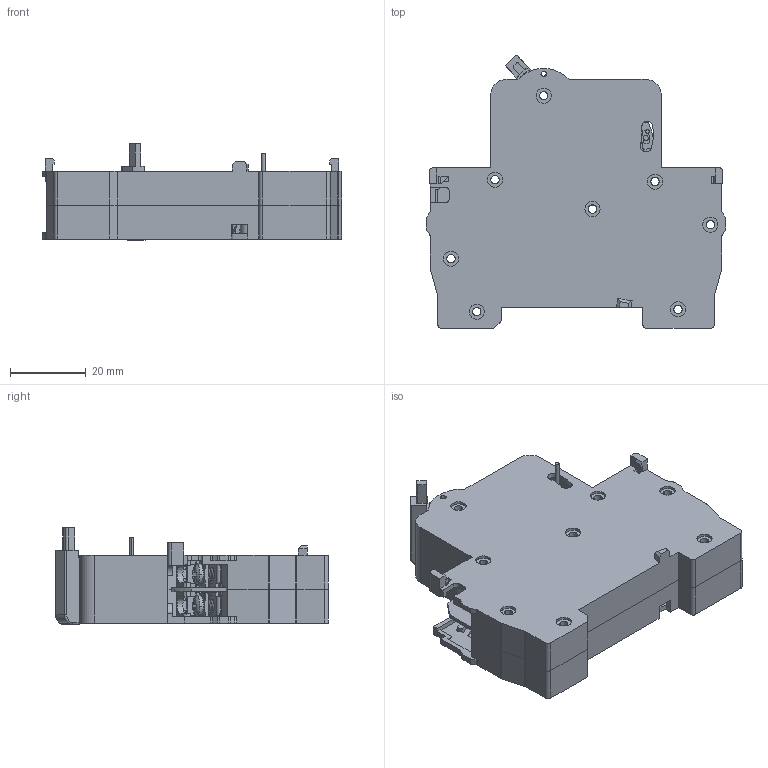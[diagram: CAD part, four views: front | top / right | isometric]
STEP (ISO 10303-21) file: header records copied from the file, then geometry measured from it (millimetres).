
FILE_DESCRIPTION((''),'2;1');
FILE_NAME('ASM0013_ASM','2025-10-31T17:09:19',('Administrator'),(''),'CREO PARAMETRIC BY PTC INC, 2018050','CREO PARAMETRIC BY PTC INC, 2018050','');
FILE_SCHEMA(('CONFIG_CONTROL_DESIGN'));
Length unit declared in the file: millimetre
Products named in the file (13): 123_STP_1_2_9; 123_STP_1_2_10; 123_STP_1_2_11; 123_STP_1_2_12; 123_STP_1_2_13; 123_STP_1_2_14; 123_STP_1_2_15; 123_STP_1_2_23; 123_STP_1_2_24; 123_STP_1_2_25; 123_STP_1_2_26; 123_STP_1_2_ASM; ASM0013_ASM
Assembly tree (12 placements, depth 3):
  ASM0013_ASM
    123_STP_1_2_ASM
      123_STP_1_2_9
      123_STP_1_2_10
      123_STP_1_2_11
      123_STP_1_2_12
      123_STP_1_2_13
      123_STP_1_2_14
      123_STP_1_2_15
      123_STP_1_2_23
      123_STP_1_2_24
      123_STP_1_2_25
      123_STP_1_2_26
Bounding box: 79.01 x 72.06 x 25.5 mm (x, y, z)
Volume: 23046.8 mm3; surface area: 35692.7 mm2
Topology: 11 solids, 11 shells, 1298 faces, 3789 edges, 2564 vertices
Faces by surface type: plane 805, cylinder 400, torus 42, cone 25, bspline 20, extrusion 6
Entity records: 48007 total; most frequent: CARTESIAN_POINT 12323, ORIENTED_EDGE 7574, DIRECTION 7394, EDGE_CURVE 3787, VERTEX_POINT 2563, VECTOR 2466, AXIS2_PLACEMENT_3D 2464, LINE 2460
